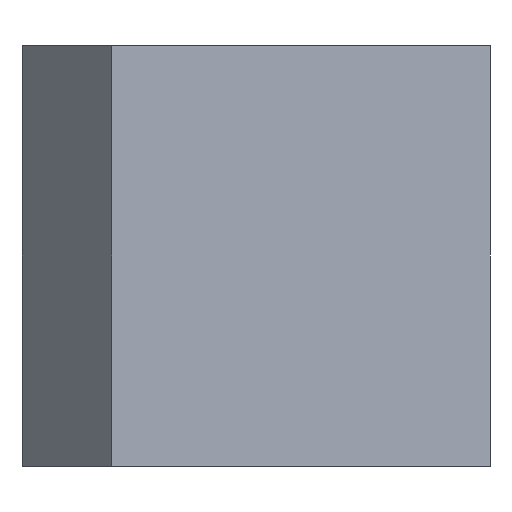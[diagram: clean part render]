
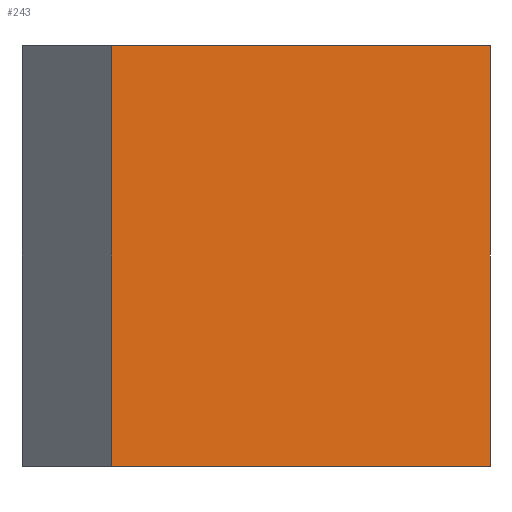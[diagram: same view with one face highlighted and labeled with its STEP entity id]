
A CAD part, left-side view. The second image highlights one B-rep face of the part: STEP entity #243.
In plain terms, the highlighted planar face has unit normal (-0.733, -0.68, 0).
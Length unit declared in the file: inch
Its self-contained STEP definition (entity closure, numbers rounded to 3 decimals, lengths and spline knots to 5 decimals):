
#33 = VECTOR ( 'NONE', #145, 39.37008 ) ;
#55 = VERTEX_POINT ( 'NONE', #184 ) ;
#57 = VERTEX_POINT ( 'NONE', #92 ) ;
#68 = DIRECTION ( 'NONE',  ( 0., 0., 1. ) ) ;
#75 = DIRECTION ( 'NONE',  ( 0.68, -0.733, 0. ) ) ;
#81 = PLANE ( 'NONE',  #451 ) ;
#82 = ORIENTED_EDGE ( 'NONE', *, *, #334, .T. ) ;
#85 = EDGE_CURVE ( 'NONE', #57, #55, #150, .T. ) ;
#87 = VECTOR ( 'NONE', #68, 39.37008 ) ;
#92 = CARTESIAN_POINT ( 'NONE',  ( -5.036, 0.899, -1. ) ) ;
#125 = CARTESIAN_POINT ( 'NONE',  ( -4.202, 0., -1. ) ) ;
#136 = VECTOR ( 'NONE', #331, 39.37008 ) ;
#145 = DIRECTION ( 'NONE',  ( 0., 0., 1. ) ) ;
#147 = EDGE_CURVE ( 'NONE', #347, #391, #301, .T. ) ;
#150 = LINE ( 'NONE', #304, #33 ) ;
#175 = CARTESIAN_POINT ( 'NONE',  ( -4.202, 0., 0. ) ) ;
#184 = CARTESIAN_POINT ( 'NONE',  ( -5.036, 0.899, 0. ) ) ;
#243 = ADVANCED_FACE ( 'NONE', ( #358 ), #81, .T. ) ;
#268 = CARTESIAN_POINT ( 'NONE',  ( -4.202, 0., -1. ) ) ;
#277 = LINE ( 'NONE', #464, #339 ) ;
#289 = ORIENTED_EDGE ( 'NONE', *, *, #383, .F. ) ;
#301 = LINE ( 'NONE', #268, #87 ) ;
#304 = CARTESIAN_POINT ( 'NONE',  ( -5.036, 0.899, -1. ) ) ;
#315 = DIRECTION ( 'NONE',  ( -0.733, -0.68, 0. ) ) ;
#317 = DIRECTION ( 'NONE',  ( 0.68, -0.733, 0. ) ) ;
#331 = DIRECTION ( 'NONE',  ( 0.68, -0.733, 0. ) ) ;
#334 = EDGE_CURVE ( 'NONE', #57, #347, #277, .T. ) ;
#339 = VECTOR ( 'NONE', #317, 39.37008 ) ;
#346 = CARTESIAN_POINT ( 'NONE',  ( -4.202, 0., -1. ) ) ;
#347 = VERTEX_POINT ( 'NONE', #125 ) ;
#358 = FACE_OUTER_BOUND ( 'NONE', #474, .T. ) ;
#369 = LINE ( 'NONE', #175, #136 ) ;
#383 = EDGE_CURVE ( 'NONE', #55, #391, #369, .T. ) ;
#391 = VERTEX_POINT ( 'NONE', #439 ) ;
#424 = ORIENTED_EDGE ( 'NONE', *, *, #85, .F. ) ;
#439 = CARTESIAN_POINT ( 'NONE',  ( -4.202, 0., 0. ) ) ;
#451 = AXIS2_PLACEMENT_3D ( 'NONE', #346, #315, #75 ) ;
#464 = CARTESIAN_POINT ( 'NONE',  ( -4.202, 0., -1. ) ) ;
#474 = EDGE_LOOP ( 'NONE', ( #289, #424, #82, #488 ) ) ;
#488 = ORIENTED_EDGE ( 'NONE', *, *, #147, .T. ) ;
